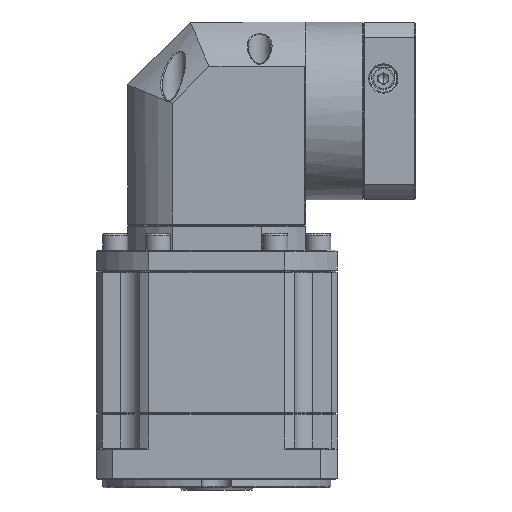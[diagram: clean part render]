
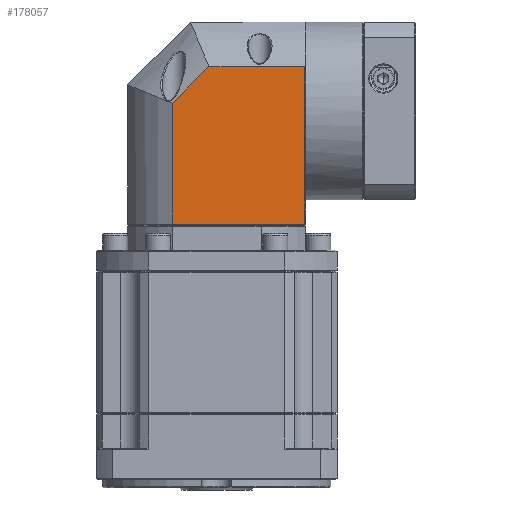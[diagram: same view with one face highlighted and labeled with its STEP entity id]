
A CAD part, front view. The second image highlights one B-rep face of the part: STEP entity #178057.
In plain terms, the highlighted planar face has unit normal (0, -1, 0).
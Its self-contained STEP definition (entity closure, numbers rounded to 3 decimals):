
#7003 = VECTOR ( 'NONE', #154926, 1000. ) ;
#7570 = AXIS2_PLACEMENT_3D ( 'NONE', #136119, #53883, #149953 ) ;
#8885 = LINE ( 'NONE', #146439, #41088 ) ;
#12909 = CARTESIAN_POINT ( 'NONE',  ( 26.391, 93.894, -3.033 ) ) ;
#18651 = DIRECTION ( 'NONE',  ( 1., 0., 0. ) ) ;
#35346 = VECTOR ( 'NONE', #18651, 1000. ) ;
#35966 = VERTEX_POINT ( 'NONE', #141445 ) ;
#41088 = VECTOR ( 'NONE', #133253, 1000. ) ;
#42286 = EDGE_CURVE ( 'NONE', #93389, #115244, #121278, .T. ) ;
#43528 = LINE ( 'NONE', #127832, #7003 ) ;
#48470 = VECTOR ( 'NONE', #66265, 1000. ) ;
#51879 = EDGE_CURVE ( 'NONE', #35966, #107321, #107598, .T. ) ;
#53883 = DIRECTION ( 'NONE',  ( 0., 1., 0. ) ) ;
#64409 = EDGE_CURVE ( 'NONE', #115244, #73362, #8885, .T. ) ;
#64965 = CARTESIAN_POINT ( 'NONE',  ( 8.86, 93.894, 18.254 ) ) ;
#66265 = DIRECTION ( 'NONE',  ( 0.707, 0., 0.707 ) ) ;
#73362 = VERTEX_POINT ( 'NONE', #174034 ) ;
#78739 = DIRECTION ( 'NONE',  ( 0., 0., 1. ) ) ;
#87089 = CARTESIAN_POINT ( 'NONE',  ( 72.573, 93.894, -3.033 ) ) ;
#93323 = EDGE_CURVE ( 'NONE', #107321, #93389, #158065, .T. ) ;
#93389 = VERTEX_POINT ( 'NONE', #12909 ) ;
#98741 = ORIENTED_EDGE ( 'NONE', *, *, #51879, .F. ) ;
#106609 = ORIENTED_EDGE ( 'NONE', *, *, #93323, .F. ) ;
#107321 = VERTEX_POINT ( 'NONE', #121346 ) ;
#107598 = LINE ( 'NONE', #64965, #176342 ) ;
#111146 = EDGE_LOOP ( 'NONE', ( #124742, #159004, #126794, #106609, #98741 ) ) ;
#115244 = VERTEX_POINT ( 'NONE', #170607 ) ;
#121278 = LINE ( 'NONE', #87089, #35346 ) ;
#121346 = CARTESIAN_POINT ( 'NONE',  ( 8.86, 93.894, -20.563 ) ) ;
#124162 = FACE_OUTER_BOUND ( 'NONE', #111146, .T. ) ;
#124742 = ORIENTED_EDGE ( 'NONE', *, *, #156738, .T. ) ;
#126794 = ORIENTED_EDGE ( 'NONE', *, *, #42286, .F. ) ;
#127832 = CARTESIAN_POINT ( 'NONE',  ( 72.573, 93.894, -78.246 ) ) ;
#133253 = DIRECTION ( 'NONE',  ( 0., 0., -1. ) ) ;
#136119 = CARTESIAN_POINT ( 'NONE',  ( 72.573, 93.894, 18.254 ) ) ;
#141445 = CARTESIAN_POINT ( 'NONE',  ( 8.86, 93.894, -78.246 ) ) ;
#146439 = CARTESIAN_POINT ( 'NONE',  ( 72.073, 93.894, 18.254 ) ) ;
#148540 = CARTESIAN_POINT ( 'NONE',  ( 8.86, 93.894, -20.563 ) ) ;
#149350 = PLANE ( 'NONE',  #7570 ) ;
#149953 = DIRECTION ( 'NONE',  ( -1., 0., 0. ) ) ;
#154926 = DIRECTION ( 'NONE',  ( 1., 0., 0. ) ) ;
#156738 = EDGE_CURVE ( 'NONE', #35966, #73362, #43528, .T. ) ;
#158065 = LINE ( 'NONE', #148540, #48470 ) ;
#159004 = ORIENTED_EDGE ( 'NONE', *, *, #64409, .F. ) ;
#170607 = CARTESIAN_POINT ( 'NONE',  ( 72.073, 93.894, -3.033 ) ) ;
#174034 = CARTESIAN_POINT ( 'NONE',  ( 72.073, 93.894, -78.246 ) ) ;
#176342 = VECTOR ( 'NONE', #78739, 1000. ) ;
#178057 = ADVANCED_FACE ( 'NONE', ( #124162 ), #149350, .F. ) ;
